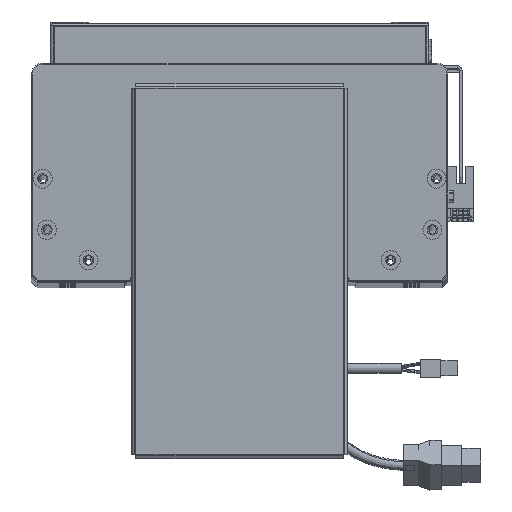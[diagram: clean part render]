
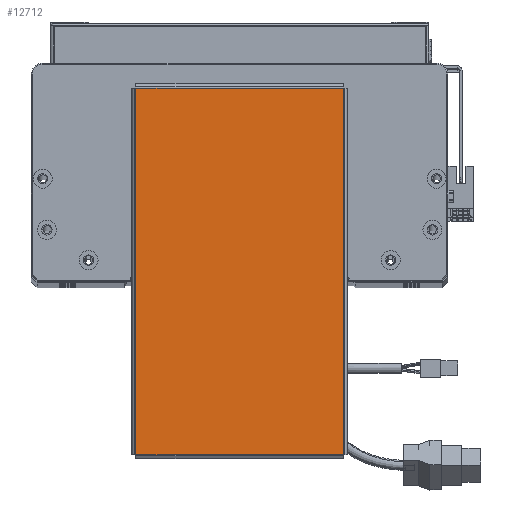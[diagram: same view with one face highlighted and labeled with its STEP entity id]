
A CAD part, top view. The second image highlights one B-rep face of the part: STEP entity #12712.
In plain terms, the highlighted planar face has unit normal (0, 0, 1).
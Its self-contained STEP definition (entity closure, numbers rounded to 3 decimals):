
#366 = VECTOR ( 'NONE', #48024, 1000. ) ;
#2705 = EDGE_CURVE ( 'NONE', #17680, #8183, #28379, .T. ) ;
#2869 = CARTESIAN_POINT ( 'NONE',  ( -96.763, 54.763, 0. ) ) ;
#5515 = VECTOR ( 'NONE', #29172, 1000. ) ;
#8183 = VERTEX_POINT ( 'NONE', #24556 ) ;
#11677 = VECTOR ( 'NONE', #37653, 1000. ) ;
#12712 = ADVANCED_FACE ( 'NONE', ( #47837 ), #62560, .T. ) ;
#13987 = LINE ( 'NONE', #38763, #61049 ) ;
#14300 = VERTEX_POINT ( 'NONE', #16736 ) ;
#15775 = CARTESIAN_POINT ( 'NONE',  ( -96.763, 54.793, 0. ) ) ;
#16439 = CARTESIAN_POINT ( 'NONE',  ( 96.763, -54.793, 0. ) ) ;
#16736 = CARTESIAN_POINT ( 'NONE',  ( 96.763, -54.763, 0. ) ) ;
#16824 = AXIS2_PLACEMENT_3D ( 'NONE', #30875, #35563, #40850 ) ;
#17680 = VERTEX_POINT ( 'NONE', #2869 ) ;
#22238 = VERTEX_POINT ( 'NONE', #46827 ) ;
#24556 = CARTESIAN_POINT ( 'NONE',  ( -96.763, -54.763, 0. ) ) ;
#25646 = LINE ( 'NONE', #16439, #11677 ) ;
#27756 = LINE ( 'NONE', #29634, #5515 ) ;
#28379 = LINE ( 'NONE', #15775, #366 ) ;
#29172 = DIRECTION ( 'NONE',  ( -1., 0., 0. ) ) ;
#29634 = CARTESIAN_POINT ( 'NONE',  ( 96.793, 54.763, 0. ) ) ;
#30679 = ORIENTED_EDGE ( 'NONE', *, *, #2705, .T. ) ;
#30793 = ORIENTED_EDGE ( 'NONE', *, *, #56488, .T. ) ;
#30875 = CARTESIAN_POINT ( 'NONE',  ( 0., 0., 0. ) ) ;
#35563 = DIRECTION ( 'NONE',  ( 0., 0., 1. ) ) ;
#37653 = DIRECTION ( 'NONE',  ( 0., 1., 0. ) ) ;
#38763 = CARTESIAN_POINT ( 'NONE',  ( -96.793, -54.763, 0. ) ) ;
#38964 = EDGE_CURVE ( 'NONE', #22238, #17680, #27756, .T. ) ;
#40319 = ORIENTED_EDGE ( 'NONE', *, *, #38964, .T. ) ;
#40850 = DIRECTION ( 'NONE',  ( 1., 0., 0. ) ) ;
#44093 = EDGE_LOOP ( 'NONE', ( #46024, #30793, #40319, #30679 ) ) ;
#46024 = ORIENTED_EDGE ( 'NONE', *, *, #66699, .T. ) ;
#46827 = CARTESIAN_POINT ( 'NONE',  ( 96.763, 54.763, 0. ) ) ;
#47837 = FACE_OUTER_BOUND ( 'NONE', #44093, .T. ) ;
#48024 = DIRECTION ( 'NONE',  ( 0., -1., 0. ) ) ;
#56488 = EDGE_CURVE ( 'NONE', #14300, #22238, #25646, .T. ) ;
#59577 = DIRECTION ( 'NONE',  ( 1., 0., 0. ) ) ;
#61049 = VECTOR ( 'NONE', #59577, 1000. ) ;
#62560 = PLANE ( 'NONE',  #16824 ) ;
#66699 = EDGE_CURVE ( 'NONE', #8183, #14300, #13987, .T. ) ;
